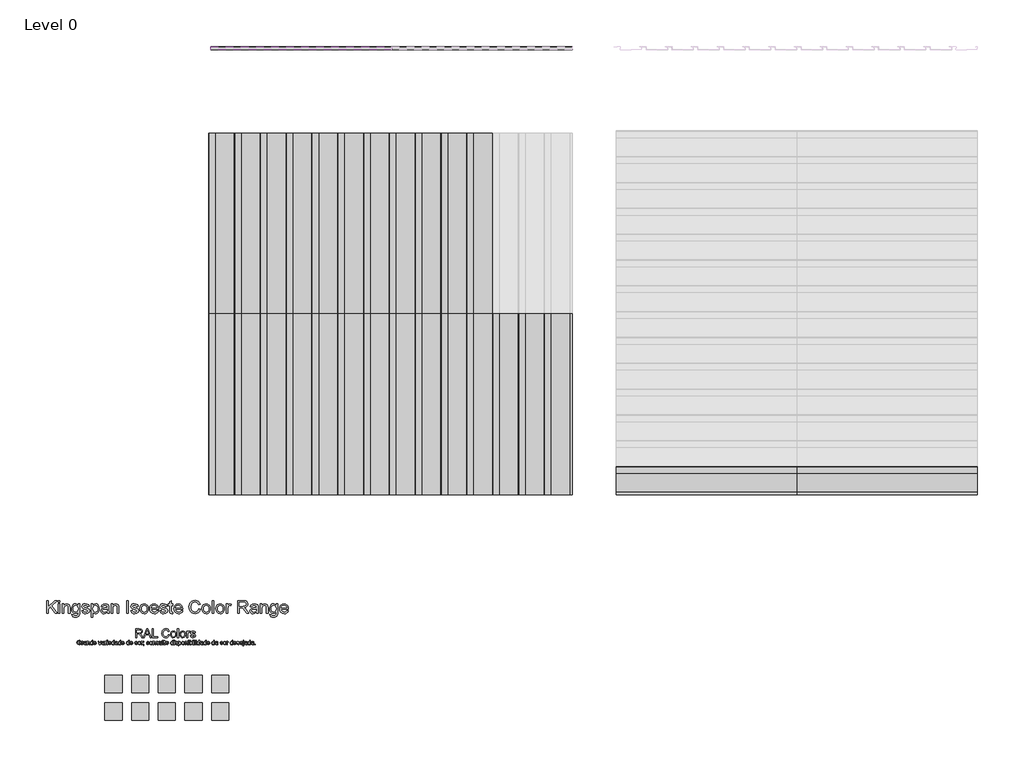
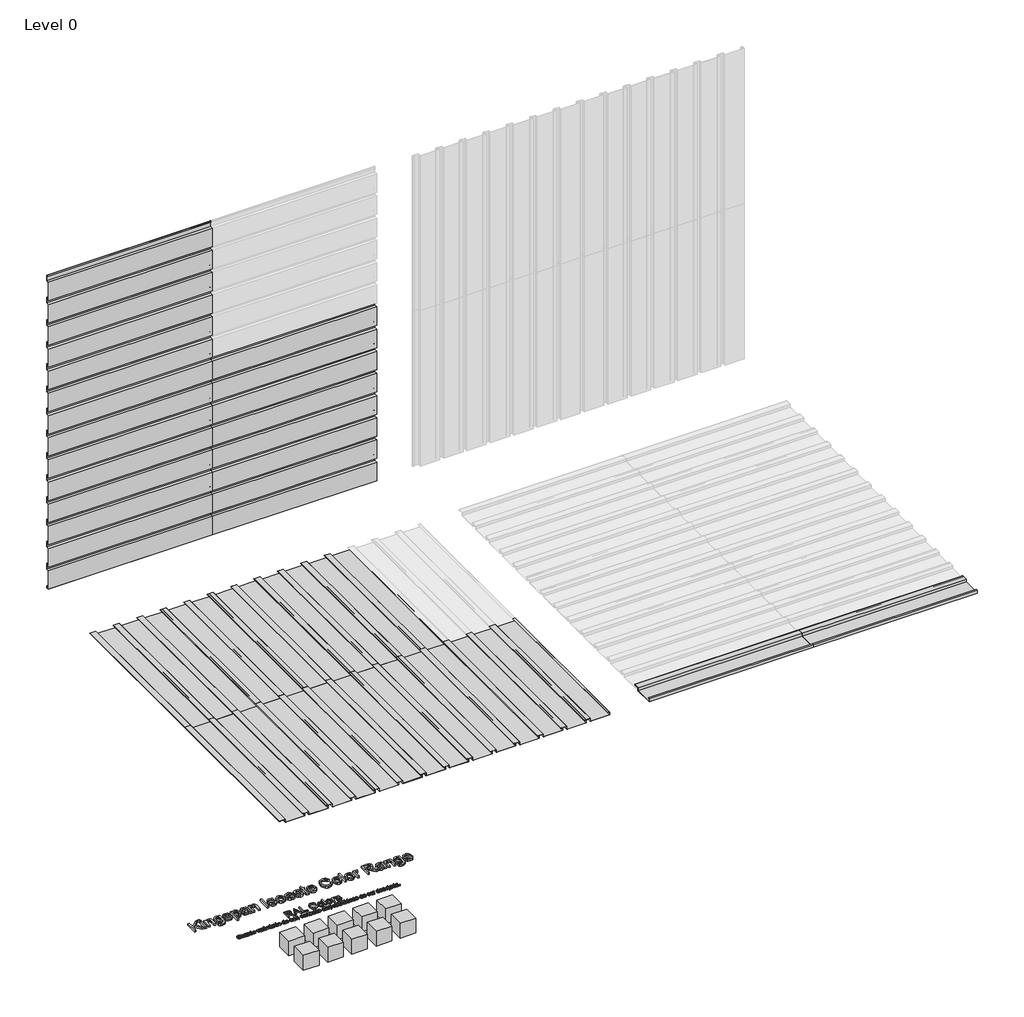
# One storey, part 1 of 2: 60 proxies.
"""IFC4 building model written with IfcOpenShell, lengths in millimetres."""

from ifc_helpers import new_model, si_unit, origin, place, context, project, spatial, transform, mapped, element, save
from components import proxy_32_ks_iso_colour_range_8220f766, proxy_32_ks_iso_colour_range_06d69407, ks_colour_sample_ks_colour_sample_0243efec, mx8_0_standard_panel_ns_97240bc2, mx8_0_standard_panel_ns_d4d0994c

model = new_model("IFC4")

# Units and contexts
model_context = context("Model", 3, world=origin())
ifc_project = project(units=[si_unit("LENGTHUNIT", "METRE", prefix="MILLI")], contexts=[model_context])

# Site, building, storey
site = spatial("IfcSite", under=ifc_project)
building = spatial("IfcBuilding", under=site)
storey = spatial("IfcBuildingStorey", under=building, Name="Level 0", Elevation=0.0)

# Proxies
placement = place(None, origin())
proxy_32_ks_iso_colour_range_shape = proxy_32_ks_iso_colour_range_8220f766(model_context)
proxy_32_ks_iso_colour_range_2_shape = proxy_32_ks_iso_colour_range_06d69407(model_context)
element("IfcBuildingElementProxy", 1, Name="32-KS-ISO-Colour Range : Kingspan Isoeste Color Range", ObjectType="32-KS-ISO-Colour Range : Kingspan Isoeste Color Range", at=placement, inside=storey, context=model_context, shape_type="MappedRepresentation", body=[
    mapped(proxy_32_ks_iso_colour_range_shape, transform((-3929.8390717, -2223.0925896, 0.0), x_axis=(1.0, 0.0, 0.0), y_axis=(0.0, 1.0, 0.0), z_axis=(0.0, 0.0, 1.0))),
    mapped(proxy_32_ks_iso_colour_range_2_shape, transform((-3929.8390717, -2223.0925896, 0.0), x_axis=(1.0, 0.0, 0.0), y_axis=(0.0, 1.0, 0.0), z_axis=(0.0, 0.0, 1.0))),
])
ks_colour_sample_ks_colour_sample_shape = ks_colour_sample_ks_colour_sample_0243efec(model_context)
element("IfcBuildingElementProxy", 2, Name="KS_Colour Sample : KS_Colour Sample", ObjectType="KS_Colour Sample : KS_Colour Sample", at=placement, inside=storey, context=model_context, shape_type="MappedRepresentation", body=[
    mapped(ks_colour_sample_ks_colour_sample_shape, transform((-3309.8390717, -2663.0925896, 0.0), x_axis=(1.0, 0.0, 0.0), y_axis=(0.0, 1.0, 0.0), z_axis=(0.0, 0.0, 1.0))),
])
element("IfcBuildingElementProxy", 3, Name="KS_Colour Sample : KS_Colour Sample", ObjectType="KS_Colour Sample : KS_Colour Sample", at=placement, inside=storey, context=model_context, shape_type="MappedRepresentation", body=[
    mapped(ks_colour_sample_ks_colour_sample_shape, transform((-3309.8390717, -2343.0925896, 0.0), x_axis=(1.0, 0.0, 0.0), y_axis=(0.0, 1.0, 0.0), z_axis=(0.0, 0.0, 1.0))),
])
element("IfcBuildingElementProxy", 4, Name="KS_Colour Sample : KS_Colour Sample", ObjectType="KS_Colour Sample : KS_Colour Sample", at=placement, inside=storey, context=model_context, shape_type="MappedRepresentation", body=[
    mapped(ks_colour_sample_ks_colour_sample_shape, transform((-4549.8390717, -2663.0925896, 0.0), x_axis=(1.0, 0.0, 0.0), y_axis=(0.0, 1.0, 0.0), z_axis=(0.0, 0.0, 1.0))),
])
element("IfcBuildingElementProxy", 5, Name="KS_Colour Sample : KS_Colour Sample", ObjectType="KS_Colour Sample : KS_Colour Sample", at=placement, inside=storey, context=model_context, shape_type="MappedRepresentation", body=[
    mapped(ks_colour_sample_ks_colour_sample_shape, transform((-4239.8390717, -2663.0925896, 0.0), x_axis=(1.0, 0.0, 0.0), y_axis=(0.0, 1.0, 0.0), z_axis=(0.0, 0.0, 1.0))),
])
element("IfcBuildingElementProxy", 6, Name="KS_Colour Sample : KS_Colour Sample", ObjectType="KS_Colour Sample : KS_Colour Sample", at=placement, inside=storey, context=model_context, shape_type="MappedRepresentation", body=[
    mapped(ks_colour_sample_ks_colour_sample_shape, transform((-3619.8390717, -2663.0925896, 0.0), x_axis=(1.0, 0.0, 0.0), y_axis=(0.0, 1.0, 0.0), z_axis=(0.0, 0.0, 1.0))),
])
element("IfcBuildingElementProxy", 7, Name="KS_Colour Sample : KS_Colour Sample", ObjectType="KS_Colour Sample : KS_Colour Sample", at=placement, inside=storey, context=model_context, shape_type="MappedRepresentation", body=[
    mapped(ks_colour_sample_ks_colour_sample_shape, transform((-4549.8390717, -2343.0925896, 0.0), x_axis=(1.0, 0.0, 0.0), y_axis=(0.0, 1.0, 0.0), z_axis=(0.0, 0.0, 1.0))),
])
element("IfcBuildingElementProxy", 8, Name="KS_Colour Sample : KS_Colour Sample", ObjectType="KS_Colour Sample : KS_Colour Sample", at=placement, inside=storey, context=model_context, shape_type="MappedRepresentation", body=[
    mapped(ks_colour_sample_ks_colour_sample_shape, transform((-4239.8390717, -2343.0925896, 0.0), x_axis=(1.0, 0.0, 0.0), y_axis=(0.0, 1.0, 0.0), z_axis=(0.0, 0.0, 1.0))),
])
element("IfcBuildingElementProxy", 9, Name="KS_Colour Sample : KS_Colour Sample", ObjectType="KS_Colour Sample : KS_Colour Sample", at=placement, inside=storey, context=model_context, shape_type="MappedRepresentation", body=[
    mapped(ks_colour_sample_ks_colour_sample_shape, transform((-3619.8390717, -2343.0925896, 0.0), x_axis=(1.0, 0.0, 0.0), y_axis=(0.0, 1.0, 0.0), z_axis=(0.0, 0.0, 1.0))),
])
element("IfcBuildingElementProxy", 10, Name="KS_Colour Sample : KS_Colour Sample", ObjectType="KS_Colour Sample : KS_Colour Sample", at=placement, inside=storey, context=model_context, shape_type="MappedRepresentation", body=[
    mapped(ks_colour_sample_ks_colour_sample_shape, transform((-3929.8390717, -2343.0925896, 0.0), x_axis=(1.0, 0.0, 0.0), y_axis=(0.0, 1.0, 0.0), z_axis=(0.0, 0.0, 1.0))),
])
element("IfcBuildingElementProxy", 11, Name="KS_Colour Sample : KS_Colour Sample", ObjectType="KS_Colour Sample : KS_Colour Sample", at=placement, inside=storey, context=model_context, shape_type="MappedRepresentation", body=[
    mapped(ks_colour_sample_ks_colour_sample_shape, transform((-3929.8390717, -2663.0925896, 0.0), x_axis=(1.0, 0.0, 0.0), y_axis=(0.0, 1.0, 0.0), z_axis=(0.0, 0.0, 1.0))),
])
mx8_0_standard_panel_ns_shape = mx8_0_standard_panel_ns_97240bc2(model_context)
element("IfcBuildingElementProxy", 12, Name="MX8.0 : Standard Panel_NS", ObjectType="MX8.0 : Standard Panel_NS", at=placement, inside=storey, context=model_context, shape_type="MappedRepresentation", body=[
    mapped(mx8_0_standard_panel_ns_shape, transform((-3417.7637295, 5063.0274074, 1500.0), x_axis=(1.0, 0.0, 0.0), y_axis=(0.0, 0.0, 1.0), z_axis=(0.0, -1.0, 0.0))),
])
element("IfcBuildingElementProxy", 13, Name="MX8.0 : Standard Panel_NS", ObjectType="MX8.0 : Standard Panel_NS", at=placement, inside=storey, context=model_context, shape_type="MappedRepresentation", body=[
    mapped(mx8_0_standard_panel_ns_shape, transform((-3417.7637295, 5063.0274074, 3900.0), x_axis=(1.0, 0.0, 0.0), y_axis=(0.0, 0.0, 1.0), z_axis=(0.0, -1.0, 0.0))),
])
element("IfcBuildingElementProxy", 14, Name="MX8.0 : Standard Panel_NS", ObjectType="MX8.0 : Standard Panel_NS", at=placement, inside=storey, context=model_context, shape_type="MappedRepresentation", body=[
    mapped(mx8_0_standard_panel_ns_shape, transform((-1317.7637295, 5063.0274074, 1500.0), x_axis=(1.0, 0.0, 0.0), y_axis=(0.0, 0.0, 1.0), z_axis=(0.0, -1.0, 0.0))),
])
mx8_0_standard_panel_ns_2_shape = mx8_0_standard_panel_ns_d4d0994c(model_context)
element("IfcBuildingElementProxy", 15, Name="MX8.0 : Standard Panel_NS", ObjectType="MX8.0 : Standard Panel_NS", at=placement, inside=storey, context=model_context, shape_type="MappedRepresentation", body=[
    mapped(mx8_0_standard_panel_ns_2_shape, transform((-3117.7637295, -141.6886547, 0.0), x_axis=(0.0, 1.0, 0.0), y_axis=(-1.0, 0.0, 0.0), z_axis=(0.0, 0.0, 1.0))),
])
element("IfcBuildingElementProxy", 16, Name="MX8.0 : Standard Panel_NS", ObjectType="MX8.0 : Standard Panel_NS", at=placement, inside=storey, context=model_context, shape_type="MappedRepresentation", body=[
    mapped(mx8_0_standard_panel_ns_2_shape, transform((-717.7637297, -141.6886547, 0.0), x_axis=(0.0, 1.0, 0.0), y_axis=(-1.0, 0.0, 0.0), z_axis=(0.0, 0.0, 1.0))),
])
element("IfcBuildingElementProxy", 17, Name="MX8.0 : Standard Panel_NS", ObjectType="MX8.0 : Standard Panel_NS", at=placement, inside=storey, context=model_context, shape_type="MappedRepresentation", body=[
    mapped(mx8_0_standard_panel_ns_2_shape, transform((-3117.7637295, 1958.3113453, 0.0), x_axis=(0.0, 1.0, 0.0), y_axis=(-1.0, 0.0, 0.0), z_axis=(0.0, 0.0, 1.0))),
])
element("IfcBuildingElementProxy", 18, Name="MX8.0 : Standard Panel_NS", ObjectType="MX8.0 : Standard Panel_NS", at=placement, inside=storey, context=model_context, shape_type="MappedRepresentation", body=[
    mapped(mx8_0_standard_panel_ns_2_shape, transform((-717.7637297, 1958.3113453, 0.0), x_axis=(0.0, 1.0, 0.0), y_axis=(-1.0, 0.0, 0.0), z_axis=(0.0, 0.0, 1.0))),
])
element("IfcBuildingElementProxy", 19, Name="MX8.0 : Standard Panel_NS", ObjectType="MX8.0 : Standard Panel_NS", at=placement, inside=storey, context=model_context, shape_type="MappedRepresentation", body=[
    mapped(mx8_0_standard_panel_ns_shape, transform((-3417.7637295, 5063.0274074, 0.0), x_axis=(1.0, 0.0, 0.0), y_axis=(0.0, 0.0, 1.0), z_axis=(0.0, -1.0, 0.0))),
])
element("IfcBuildingElementProxy", 20, Name="MX8.0 : Standard Panel_NS", ObjectType="MX8.0 : Standard Panel_NS", at=placement, inside=storey, context=model_context, shape_type="MappedRepresentation", body=[
    mapped(mx8_0_standard_panel_ns_shape, transform((-3417.7637295, 5063.0274074, 2400.0), x_axis=(1.0, 0.0, 0.0), y_axis=(0.0, 0.0, 1.0), z_axis=(0.0, -1.0, 0.0))),
])
element("IfcBuildingElementProxy", 21, Name="MX8.0 : Standard Panel_NS", ObjectType="MX8.0 : Standard Panel_NS", at=placement, inside=storey, context=model_context, shape_type="MappedRepresentation", body=[
    mapped(mx8_0_standard_panel_ns_shape, transform((-1317.7637295, 5063.0274074, 0.0), x_axis=(1.0, 0.0, 0.0), y_axis=(0.0, 0.0, 1.0), z_axis=(0.0, -1.0, 0.0))),
])
element("IfcBuildingElementProxy", 22, Name="MX8.0 : Standard Panel_NS", ObjectType="MX8.0 : Standard Panel_NS", at=placement, inside=storey, context=model_context, shape_type="MappedRepresentation", body=[
    mapped(mx8_0_standard_panel_ns_2_shape, transform((-1617.7637297, -141.6886547, 0.0), x_axis=(0.0, 1.0, 0.0), y_axis=(-1.0, 0.0, 0.0), z_axis=(0.0, 0.0, 1.0))),
])
element("IfcBuildingElementProxy", 23, Name="MX8.0 : Standard Panel_NS", ObjectType="MX8.0 : Standard Panel_NS", at=placement, inside=storey, context=model_context, shape_type="MappedRepresentation", body=[
    mapped(mx8_0_standard_panel_ns_2_shape, transform((1289.7088668, -141.6886547, 0.0), x_axis=(1.0, 0.0, 0.0), y_axis=(0.0, 1.0, 0.0), z_axis=(0.0, 0.0, 1.0))),
])
element("IfcBuildingElementProxy", 24, Name="MX8.0 : Standard Panel_NS", ObjectType="MX8.0 : Standard Panel_NS", at=placement, inside=storey, context=model_context, shape_type="MappedRepresentation", body=[
    mapped(mx8_0_standard_panel_ns_2_shape, transform((-1617.7637297, 1958.3113453, 0.0), x_axis=(0.0, 1.0, 0.0), y_axis=(-1.0, 0.0, 0.0), z_axis=(0.0, 0.0, 1.0))),
])
element("IfcBuildingElementProxy", 25, Name="MX8.0 : Standard Panel_NS", ObjectType="MX8.0 : Standard Panel_NS", at=placement, inside=storey, context=model_context, shape_type="MappedRepresentation", body=[
    mapped(mx8_0_standard_panel_ns_2_shape, transform((3389.7088668, -141.6886547, 0.0), x_axis=(1.0, 0.0, 0.0), y_axis=(0.0, 1.0, 0.0), z_axis=(0.0, 0.0, 1.0))),
])
element("IfcBuildingElementProxy", 26, Name="MX8.0 : Standard Panel_NS", ObjectType="MX8.0 : Standard Panel_NS", at=placement, inside=storey, context=model_context, shape_type="MappedRepresentation", body=[
    mapped(mx8_0_standard_panel_ns_2_shape, transform((782.2362705, -141.6886547, 0.0), x_axis=(0.0, 1.0, 0.0), y_axis=(-1.0, 0.0, 0.0), z_axis=(0.0, 0.0, 1.0))),
])
element("IfcBuildingElementProxy", 27, Name="MX8.0 : Standard Panel_NS", ObjectType="MX8.0 : Standard Panel_NS", at=placement, inside=storey, context=model_context, shape_type="MappedRepresentation", body=[
    mapped(mx8_0_standard_panel_ns_shape, transform((-3417.7637295, 5063.0274074, 300.0), x_axis=(1.0, 0.0, 0.0), y_axis=(0.0, 0.0, 1.0), z_axis=(0.0, -1.0, 0.0))),
])
element("IfcBuildingElementProxy", 28, Name="MX8.0 : Standard Panel_NS", ObjectType="MX8.0 : Standard Panel_NS", at=placement, inside=storey, context=model_context, shape_type="MappedRepresentation", body=[
    mapped(mx8_0_standard_panel_ns_shape, transform((-3417.7637295, 5063.0274074, 2700.0), x_axis=(1.0, 0.0, 0.0), y_axis=(0.0, 0.0, 1.0), z_axis=(0.0, -1.0, 0.0))),
])
element("IfcBuildingElementProxy", 29, Name="MX8.0 : Standard Panel_NS", ObjectType="MX8.0 : Standard Panel_NS", at=placement, inside=storey, context=model_context, shape_type="MappedRepresentation", body=[
    mapped(mx8_0_standard_panel_ns_shape, transform((-1317.7637295, 5063.0274074, 300.0), x_axis=(1.0, 0.0, 0.0), y_axis=(0.0, 0.0, 1.0), z_axis=(0.0, -1.0, 0.0))),
])
element("IfcBuildingElementProxy", 30, Name="MX8.0 : Standard Panel_NS", ObjectType="MX8.0 : Standard Panel_NS", at=placement, inside=storey, context=model_context, shape_type="MappedRepresentation", body=[
    mapped(mx8_0_standard_panel_ns_shape, transform((-3417.7637295, 5063.0274074, 600.0), x_axis=(1.0, 0.0, 0.0), y_axis=(0.0, 0.0, 1.0), z_axis=(0.0, -1.0, 0.0))),
])
element("IfcBuildingElementProxy", 31, Name="MX8.0 : Standard Panel_NS", ObjectType="MX8.0 : Standard Panel_NS", at=placement, inside=storey, context=model_context, shape_type="MappedRepresentation", body=[
    mapped(mx8_0_standard_panel_ns_shape, transform((-3417.7637295, 5063.0274074, 3000.0), x_axis=(1.0, 0.0, 0.0), y_axis=(0.0, 0.0, 1.0), z_axis=(0.0, -1.0, 0.0))),
])
element("IfcBuildingElementProxy", 32, Name="MX8.0 : Standard Panel_NS", ObjectType="MX8.0 : Standard Panel_NS", at=placement, inside=storey, context=model_context, shape_type="MappedRepresentation", body=[
    mapped(mx8_0_standard_panel_ns_shape, transform((-1317.7637295, 5063.0274074, 600.0), x_axis=(1.0, 0.0, 0.0), y_axis=(0.0, 0.0, 1.0), z_axis=(0.0, -1.0, 0.0))),
])
element("IfcBuildingElementProxy", 33, Name="MX8.0 : Standard Panel_NS", ObjectType="MX8.0 : Standard Panel_NS", at=placement, inside=storey, context=model_context, shape_type="MappedRepresentation", body=[
    mapped(mx8_0_standard_panel_ns_shape, transform((-3417.7637295, 5063.0274074, 900.0), x_axis=(1.0, 0.0, 0.0), y_axis=(0.0, 0.0, 1.0), z_axis=(0.0, -1.0, 0.0))),
])
element("IfcBuildingElementProxy", 34, Name="MX8.0 : Standard Panel_NS", ObjectType="MX8.0 : Standard Panel_NS", at=placement, inside=storey, context=model_context, shape_type="MappedRepresentation", body=[
    mapped(mx8_0_standard_panel_ns_shape, transform((-3417.7637295, 5063.0274074, 3300.0), x_axis=(1.0, 0.0, 0.0), y_axis=(0.0, 0.0, 1.0), z_axis=(0.0, -1.0, 0.0))),
])
element("IfcBuildingElementProxy", 35, Name="MX8.0 : Standard Panel_NS", ObjectType="MX8.0 : Standard Panel_NS", at=placement, inside=storey, context=model_context, shape_type="MappedRepresentation", body=[
    mapped(mx8_0_standard_panel_ns_shape, transform((-1317.7637295, 5063.0274074, 900.0), x_axis=(1.0, 0.0, 0.0), y_axis=(0.0, 0.0, 1.0), z_axis=(0.0, -1.0, 0.0))),
])
element("IfcBuildingElementProxy", 36, Name="MX8.0 : Standard Panel_NS", ObjectType="MX8.0 : Standard Panel_NS", at=placement, inside=storey, context=model_context, shape_type="MappedRepresentation", body=[
    mapped(mx8_0_standard_panel_ns_shape, transform((-3417.7637295, 5063.0274074, 1200.0), x_axis=(1.0, 0.0, 0.0), y_axis=(0.0, 0.0, 1.0), z_axis=(0.0, -1.0, 0.0))),
])
element("IfcBuildingElementProxy", 37, Name="MX8.0 : Standard Panel_NS", ObjectType="MX8.0 : Standard Panel_NS", at=placement, inside=storey, context=model_context, shape_type="MappedRepresentation", body=[
    mapped(mx8_0_standard_panel_ns_shape, transform((-3417.7637295, 5063.0274074, 3600.0), x_axis=(1.0, 0.0, 0.0), y_axis=(0.0, 0.0, 1.0), z_axis=(0.0, -1.0, 0.0))),
])
element("IfcBuildingElementProxy", 38, Name="MX8.0 : Standard Panel_NS", ObjectType="MX8.0 : Standard Panel_NS", at=placement, inside=storey, context=model_context, shape_type="MappedRepresentation", body=[
    mapped(mx8_0_standard_panel_ns_shape, transform((-1317.7637295, 5063.0274074, 1200.0), x_axis=(1.0, 0.0, 0.0), y_axis=(0.0, 0.0, 1.0), z_axis=(0.0, -1.0, 0.0))),
])
element("IfcBuildingElementProxy", 39, Name="MX8.0 : Standard Panel_NS", ObjectType="MX8.0 : Standard Panel_NS", at=placement, inside=storey, context=model_context, shape_type="MappedRepresentation", body=[
    mapped(mx8_0_standard_panel_ns_shape, transform((-3417.7637295, 5063.0274074, 1800.0), x_axis=(1.0, 0.0, 0.0), y_axis=(0.0, 0.0, 1.0), z_axis=(0.0, -1.0, 0.0))),
])
element("IfcBuildingElementProxy", 40, Name="MX8.0 : Standard Panel_NS", ObjectType="MX8.0 : Standard Panel_NS", at=placement, inside=storey, context=model_context, shape_type="MappedRepresentation", body=[
    mapped(mx8_0_standard_panel_ns_shape, transform((-1317.7637295, 5063.0274074, 1800.0), x_axis=(1.0, 0.0, 0.0), y_axis=(0.0, 0.0, 1.0), z_axis=(0.0, -1.0, 0.0))),
])
element("IfcBuildingElementProxy", 41, Name="MX8.0 : Standard Panel_NS", ObjectType="MX8.0 : Standard Panel_NS", at=placement, inside=storey, context=model_context, shape_type="MappedRepresentation", body=[
    mapped(mx8_0_standard_panel_ns_shape, transform((-3417.7637295, 5063.0274074, 2100.0), x_axis=(1.0, 0.0, 0.0), y_axis=(0.0, 0.0, 1.0), z_axis=(0.0, -1.0, 0.0))),
])
element("IfcBuildingElementProxy", 42, Name="MX8.0 : Standard Panel_NS", ObjectType="MX8.0 : Standard Panel_NS", at=placement, inside=storey, context=model_context, shape_type="MappedRepresentation", body=[
    mapped(mx8_0_standard_panel_ns_shape, transform((-1317.7637295, 5063.0274074, 2100.0), x_axis=(1.0, 0.0, 0.0), y_axis=(0.0, 0.0, 1.0), z_axis=(0.0, -1.0, 0.0))),
])
element("IfcBuildingElementProxy", 43, Name="MX8.0 : Standard Panel_NS", ObjectType="MX8.0 : Standard Panel_NS", at=placement, inside=storey, context=model_context, shape_type="MappedRepresentation", body=[
    mapped(mx8_0_standard_panel_ns_2_shape, transform((482.2362703, -141.6886547, 0.0), x_axis=(0.0, 1.0, 0.0), y_axis=(-1.0, 0.0, 0.0), z_axis=(0.0, 0.0, 1.0))),
])
element("IfcBuildingElementProxy", 44, Name="MX8.0 : Standard Panel_NS", ObjectType="MX8.0 : Standard Panel_NS", at=placement, inside=storey, context=model_context, shape_type="MappedRepresentation", body=[
    mapped(mx8_0_standard_panel_ns_2_shape, transform((-1917.7637297, -141.6886547, 0.0), x_axis=(0.0, 1.0, 0.0), y_axis=(-1.0, 0.0, 0.0), z_axis=(0.0, 0.0, 1.0))),
])
element("IfcBuildingElementProxy", 45, Name="MX8.0 : Standard Panel_NS", ObjectType="MX8.0 : Standard Panel_NS", at=placement, inside=storey, context=model_context, shape_type="MappedRepresentation", body=[
    mapped(mx8_0_standard_panel_ns_2_shape, transform((-1917.7637297, 1958.3113453, 0.0), x_axis=(0.0, 1.0, 0.0), y_axis=(-1.0, 0.0, 0.0), z_axis=(0.0, 0.0, 1.0))),
])
element("IfcBuildingElementProxy", 46, Name="MX8.0 : Standard Panel_NS", ObjectType="MX8.0 : Standard Panel_NS", at=placement, inside=storey, context=model_context, shape_type="MappedRepresentation", body=[
    mapped(mx8_0_standard_panel_ns_2_shape, transform((182.2362703, -141.6886547, 0.0), x_axis=(0.0, 1.0, 0.0), y_axis=(-1.0, 0.0, 0.0), z_axis=(0.0, 0.0, 1.0))),
])
element("IfcBuildingElementProxy", 47, Name="MX8.0 : Standard Panel_NS", ObjectType="MX8.0 : Standard Panel_NS", at=placement, inside=storey, context=model_context, shape_type="MappedRepresentation", body=[
    mapped(mx8_0_standard_panel_ns_2_shape, transform((-2217.7637297, -141.6886547, 0.0), x_axis=(0.0, 1.0, 0.0), y_axis=(-1.0, 0.0, 0.0), z_axis=(0.0, 0.0, 1.0))),
])
element("IfcBuildingElementProxy", 48, Name="MX8.0 : Standard Panel_NS", ObjectType="MX8.0 : Standard Panel_NS", at=placement, inside=storey, context=model_context, shape_type="MappedRepresentation", body=[
    mapped(mx8_0_standard_panel_ns_2_shape, transform((-2217.7637297, 1958.3113453, 0.0), x_axis=(0.0, 1.0, 0.0), y_axis=(-1.0, 0.0, 0.0), z_axis=(0.0, 0.0, 1.0))),
])
element("IfcBuildingElementProxy", 49, Name="MX8.0 : Standard Panel_NS", ObjectType="MX8.0 : Standard Panel_NS", at=placement, inside=storey, context=model_context, shape_type="MappedRepresentation", body=[
    mapped(mx8_0_standard_panel_ns_2_shape, transform((-117.7637297, -141.6886547, 0.0), x_axis=(0.0, 1.0, 0.0), y_axis=(-1.0, 0.0, 0.0), z_axis=(0.0, 0.0, 1.0))),
])
element("IfcBuildingElementProxy", 50, Name="MX8.0 : Standard Panel_NS", ObjectType="MX8.0 : Standard Panel_NS", at=placement, inside=storey, context=model_context, shape_type="MappedRepresentation", body=[
    mapped(mx8_0_standard_panel_ns_2_shape, transform((-2517.7637297, -141.6886547, 0.0), x_axis=(0.0, 1.0, 0.0), y_axis=(-1.0, 0.0, 0.0), z_axis=(0.0, 0.0, 1.0))),
])
element("IfcBuildingElementProxy", 51, Name="MX8.0 : Standard Panel_NS", ObjectType="MX8.0 : Standard Panel_NS", at=placement, inside=storey, context=model_context, shape_type="MappedRepresentation", body=[
    mapped(mx8_0_standard_panel_ns_2_shape, transform((-2517.7637297, 1958.3113453, 0.0), x_axis=(0.0, 1.0, 0.0), y_axis=(-1.0, 0.0, 0.0), z_axis=(0.0, 0.0, 1.0))),
])
element("IfcBuildingElementProxy", 52, Name="MX8.0 : Standard Panel_NS", ObjectType="MX8.0 : Standard Panel_NS", at=placement, inside=storey, context=model_context, shape_type="MappedRepresentation", body=[
    mapped(mx8_0_standard_panel_ns_2_shape, transform((-117.7637297, 1958.3113453, 0.0), x_axis=(0.0, 1.0, 0.0), y_axis=(-1.0, 0.0, 0.0), z_axis=(0.0, 0.0, 1.0))),
])
element("IfcBuildingElementProxy", 53, Name="MX8.0 : Standard Panel_NS", ObjectType="MX8.0 : Standard Panel_NS", at=placement, inside=storey, context=model_context, shape_type="MappedRepresentation", body=[
    mapped(mx8_0_standard_panel_ns_2_shape, transform((-417.7637297, -141.6886547, 0.0), x_axis=(0.0, 1.0, 0.0), y_axis=(-1.0, 0.0, 0.0), z_axis=(0.0, 0.0, 1.0))),
])
element("IfcBuildingElementProxy", 54, Name="MX8.0 : Standard Panel_NS", ObjectType="MX8.0 : Standard Panel_NS", at=placement, inside=storey, context=model_context, shape_type="MappedRepresentation", body=[
    mapped(mx8_0_standard_panel_ns_2_shape, transform((-2817.7637297, -141.6886547, 0.0), x_axis=(0.0, 1.0, 0.0), y_axis=(-1.0, 0.0, 0.0), z_axis=(0.0, 0.0, 1.0))),
])
element("IfcBuildingElementProxy", 55, Name="MX8.0 : Standard Panel_NS", ObjectType="MX8.0 : Standard Panel_NS", at=placement, inside=storey, context=model_context, shape_type="MappedRepresentation", body=[
    mapped(mx8_0_standard_panel_ns_2_shape, transform((-2817.7637297, 1958.3113453, 0.0), x_axis=(0.0, 1.0, 0.0), y_axis=(-1.0, 0.0, 0.0), z_axis=(0.0, 0.0, 1.0))),
])
element("IfcBuildingElementProxy", 56, Name="MX8.0 : Standard Panel_NS", ObjectType="MX8.0 : Standard Panel_NS", at=placement, inside=storey, context=model_context, shape_type="MappedRepresentation", body=[
    mapped(mx8_0_standard_panel_ns_2_shape, transform((-417.7637297, 1958.3113453, 0.0), x_axis=(0.0, 1.0, 0.0), y_axis=(-1.0, 0.0, 0.0), z_axis=(0.0, 0.0, 1.0))),
])
element("IfcBuildingElementProxy", 57, Name="MX8.0 : Standard Panel_NS", ObjectType="MX8.0 : Standard Panel_NS", at=placement, inside=storey, context=model_context, shape_type="MappedRepresentation", body=[
    mapped(mx8_0_standard_panel_ns_2_shape, transform((-1017.7637297, -141.6886547, 0.0), x_axis=(0.0, 1.0, 0.0), y_axis=(-1.0, 0.0, 0.0), z_axis=(0.0, 0.0, 1.0))),
])
element("IfcBuildingElementProxy", 58, Name="MX8.0 : Standard Panel_NS", ObjectType="MX8.0 : Standard Panel_NS", at=placement, inside=storey, context=model_context, shape_type="MappedRepresentation", body=[
    mapped(mx8_0_standard_panel_ns_2_shape, transform((-1017.7637297, 1958.3113453, 0.0), x_axis=(0.0, 1.0, 0.0), y_axis=(-1.0, 0.0, 0.0), z_axis=(0.0, 0.0, 1.0))),
])
element("IfcBuildingElementProxy", 59, Name="MX8.0 : Standard Panel_NS", ObjectType="MX8.0 : Standard Panel_NS", at=placement, inside=storey, context=model_context, shape_type="MappedRepresentation", body=[
    mapped(mx8_0_standard_panel_ns_2_shape, transform((-1317.7637297, -141.6886547, 0.0), x_axis=(0.0, 1.0, 0.0), y_axis=(-1.0, 0.0, 0.0), z_axis=(0.0, 0.0, 1.0))),
])
element("IfcBuildingElementProxy", 60, Name="MX8.0 : Standard Panel_NS", ObjectType="MX8.0 : Standard Panel_NS", at=placement, inside=storey, context=model_context, shape_type="MappedRepresentation", body=[
    mapped(mx8_0_standard_panel_ns_2_shape, transform((-1317.7637297, 1958.3113453, 0.0), x_axis=(0.0, 1.0, 0.0), y_axis=(-1.0, 0.0, 0.0), z_axis=(0.0, 0.0, 1.0))),
])

save(model, "model.ifc")
